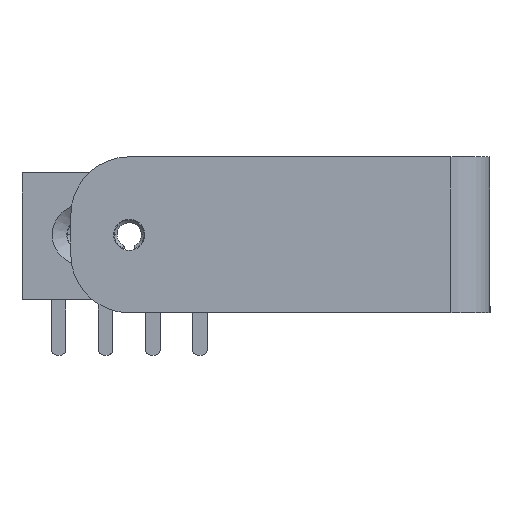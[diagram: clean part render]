
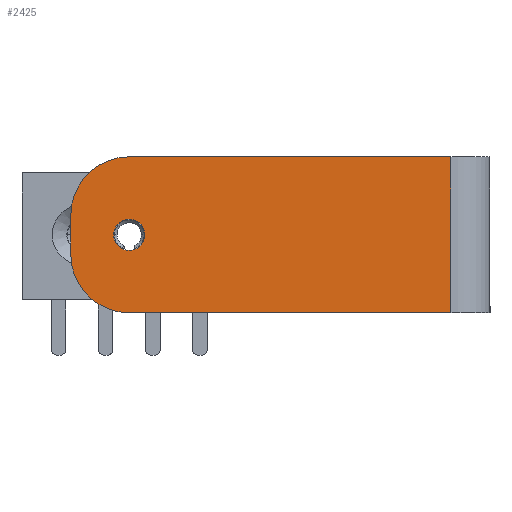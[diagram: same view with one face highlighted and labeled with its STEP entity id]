
A CAD part, left-side view. The second image highlights one B-rep face of the part: STEP entity #2425.
In plain terms, the highlighted planar face has unit normal (-1, 0, 0) as drawn and (1, 0, 0) by its records, which use the part's own axes.
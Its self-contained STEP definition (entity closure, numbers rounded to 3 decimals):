
#135 = CARTESIAN_POINT ( 'NONE',  ( 185., 40., 6. ) ) ;
#288 = VECTOR ( 'NONE', #350, 1000. ) ;
#325 = CARTESIAN_POINT ( 'NONE',  ( 185., 34., 8. ) ) ;
#344 = DIRECTION ( 'NONE',  ( 0., -1., 0. ) ) ;
#350 = DIRECTION ( 'NONE',  ( 0., 0., -1. ) ) ;
#393 = FACE_OUTER_BOUND ( 'NONE', #3144, .T. ) ;
#485 = CARTESIAN_POINT ( 'NONE',  ( 185., -3., 16. ) ) ;
#565 = CARTESIAN_POINT ( 'NONE',  ( 185., 1., 0. ) ) ;
#569 = PLANE ( 'NONE',  #1524 ) ;
#604 = CARTESIAN_POINT ( 'NONE',  ( 185., 40., 10. ) ) ;
#613 = CARTESIAN_POINT ( 'NONE',  ( 185., 35.6, 8. ) ) ;
#751 = LINE ( 'NONE', #3038, #3496 ) ;
#968 = VERTEX_POINT ( 'NONE', #3654 ) ;
#973 = LINE ( 'NONE', #6174, #288 ) ;
#1015 = DIRECTION ( 'NONE',  ( -1., 0., 0. ) ) ;
#1041 = ORIENTED_EDGE ( 'NONE', *, *, #1640, .T. ) ;
#1166 = ORIENTED_EDGE ( 'NONE', *, *, #1977, .F. ) ;
#1227 = CIRCLE ( 'NONE', #3892, 6. ) ;
#1396 = ORIENTED_EDGE ( 'NONE', *, *, #1600, .T. ) ;
#1404 = CARTESIAN_POINT ( 'NONE',  ( 185., -3., 0. ) ) ;
#1470 = EDGE_CURVE ( 'NONE', #5793, #3940, #4249, .T. ) ;
#1524 = AXIS2_PLACEMENT_3D ( 'NONE', #485, #1015, #1957 ) ;
#1600 = EDGE_CURVE ( 'NONE', #5343, #1987, #973, .T. ) ;
#1640 = EDGE_CURVE ( 'NONE', #1987, #6113, #4473, .T. ) ;
#1703 = CARTESIAN_POINT ( 'NONE',  ( 185., 34., 6. ) ) ;
#1781 = DIRECTION ( 'NONE',  ( -1., 0., 0. ) ) ;
#1824 = ORIENTED_EDGE ( 'NONE', *, *, #3400, .T. ) ;
#1831 = CIRCLE ( 'NONE', #2455, 1.6 ) ;
#1928 = VERTEX_POINT ( 'NONE', #135 ) ;
#1957 = DIRECTION ( 'NONE',  ( 0., -1., 0. ) ) ;
#1961 = VERTEX_POINT ( 'NONE', #604 ) ;
#1977 = EDGE_CURVE ( 'NONE', #5343, #968, #3924, .T. ) ;
#1987 = VERTEX_POINT ( 'NONE', #565 ) ;
#2095 = DIRECTION ( 'NONE',  ( 0., 0., -1. ) ) ;
#2161 = ORIENTED_EDGE ( 'NONE', *, *, #3008, .T. ) ;
#2227 = CIRCLE ( 'NONE', #2288, 6. ) ;
#2268 = DIRECTION ( 'NONE',  ( 1., 0., 0. ) ) ;
#2288 = AXIS2_PLACEMENT_3D ( 'NONE', #1703, #2268, #6139 ) ;
#2425 = ADVANCED_FACE ( 'NONE', ( #3602, #393 ), #569, .F. ) ;
#2455 = AXIS2_PLACEMENT_3D ( 'NONE', #4133, #4617, #5627 ) ;
#2541 = CARTESIAN_POINT ( 'NONE',  ( 185., -3., 16. ) ) ;
#2546 = CARTESIAN_POINT ( 'NONE',  ( 185., 34., 0. ) ) ;
#2666 = ORIENTED_EDGE ( 'NONE', *, *, #4295, .F. ) ;
#3008 = EDGE_CURVE ( 'NONE', #6113, #1928, #2227, .T. ) ;
#3038 = CARTESIAN_POINT ( 'NONE',  ( 185., 40., 16. ) ) ;
#3144 = EDGE_LOOP ( 'NONE', ( #1166, #1396, #1041, #2161, #2666, #1824 ) ) ;
#3299 = VECTOR ( 'NONE', #3524, 1000. ) ;
#3400 = EDGE_CURVE ( 'NONE', #1961, #968, #1227, .T. ) ;
#3496 = VECTOR ( 'NONE', #2095, 1000. ) ;
#3524 = DIRECTION ( 'NONE',  ( 0., 1., 0. ) ) ;
#3602 = FACE_BOUND ( 'NONE', #5892, .T. ) ;
#3654 = CARTESIAN_POINT ( 'NONE',  ( 185., 34., 16. ) ) ;
#3656 = EDGE_CURVE ( 'NONE', #3940, #5793, #1831, .T. ) ;
#3690 = CARTESIAN_POINT ( 'NONE',  ( 185., 34., 10. ) ) ;
#3696 = CARTESIAN_POINT ( 'NONE',  ( 185., 32.4, 8. ) ) ;
#3750 = DIRECTION ( 'NONE',  ( 0., -1., 0. ) ) ;
#3892 = AXIS2_PLACEMENT_3D ( 'NONE', #3690, #4178, #3750 ) ;
#3924 = LINE ( 'NONE', #2541, #3299 ) ;
#3940 = VERTEX_POINT ( 'NONE', #613 ) ;
#4012 = ORIENTED_EDGE ( 'NONE', *, *, #3656, .T. ) ;
#4133 = CARTESIAN_POINT ( 'NONE',  ( 185., 34., 8. ) ) ;
#4178 = DIRECTION ( 'NONE',  ( 1., 0., 0. ) ) ;
#4249 = CIRCLE ( 'NONE', #6025, 1.6 ) ;
#4295 = EDGE_CURVE ( 'NONE', #1961, #1928, #751, .T. ) ;
#4473 = LINE ( 'NONE', #1404, #4702 ) ;
#4617 = DIRECTION ( 'NONE',  ( -1., 0., 0. ) ) ;
#4645 = ORIENTED_EDGE ( 'NONE', *, *, #1470, .T. ) ;
#4702 = VECTOR ( 'NONE', #5696, 1000. ) ;
#5343 = VERTEX_POINT ( 'NONE', #5891 ) ;
#5627 = DIRECTION ( 'NONE',  ( 0., -1., 0. ) ) ;
#5696 = DIRECTION ( 'NONE',  ( 0., 1., 0. ) ) ;
#5793 = VERTEX_POINT ( 'NONE', #3696 ) ;
#5891 = CARTESIAN_POINT ( 'NONE',  ( 185., 1., 16. ) ) ;
#5892 = EDGE_LOOP ( 'NONE', ( #4645, #4012 ) ) ;
#6025 = AXIS2_PLACEMENT_3D ( 'NONE', #325, #1781, #344 ) ;
#6113 = VERTEX_POINT ( 'NONE', #2546 ) ;
#6139 = DIRECTION ( 'NONE',  ( 0., -1., 0. ) ) ;
#6174 = CARTESIAN_POINT ( 'NONE',  ( 185., 1., 16. ) ) ;
